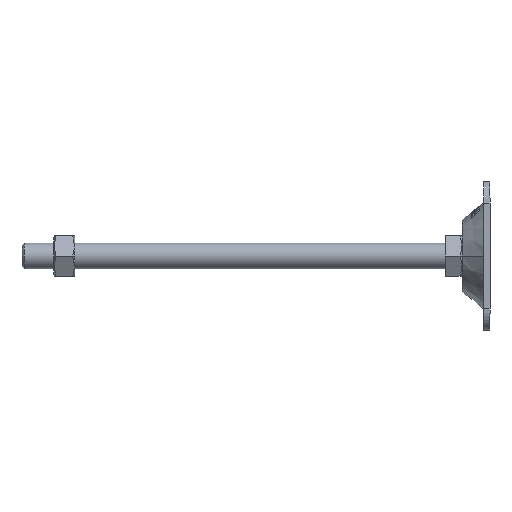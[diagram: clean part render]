
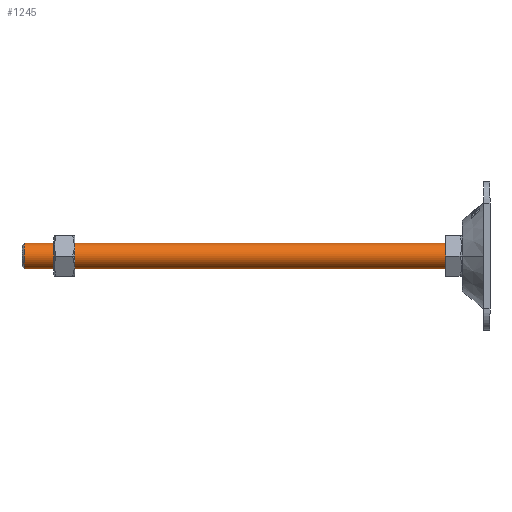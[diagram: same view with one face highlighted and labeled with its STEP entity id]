
A CAD part, left-side view. The second image highlights one B-rep face of the part: STEP entity #1245.
In plain terms, the highlighted cylindrical face has radius 6 mm (diameter 12 mm), a partial arc.
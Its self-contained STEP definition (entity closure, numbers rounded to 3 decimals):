
#38 = ORIENTED_EDGE ( 'NONE', *, *, #2891, .T. ) ;
#104 = CARTESIAN_POINT ( 'NONE',  ( 0., 207., 6. ) ) ;
#267 = CARTESIAN_POINT ( 'NONE',  ( 0., 6., 0. ) ) ;
#300 = FACE_OUTER_BOUND ( 'NONE', #1595, .T. ) ;
#674 = CARTESIAN_POINT ( 'NONE',  ( 0., 207., -6. ) ) ;
#676 = AXIS2_PLACEMENT_3D ( 'NONE', #5025, #1889, #4576 ) ;
#1078 = CARTESIAN_POINT ( 'NONE',  ( 0., 8., -6. ) ) ;
#1245 = ADVANCED_FACE ( 'NONE', ( #300 ), #1293, .T. ) ;
#1293 = CYLINDRICAL_SURFACE ( 'NONE', #5319, 6. ) ;
#1327 = CIRCLE ( 'NONE', #5057, 6. ) ;
#1354 = LINE ( 'NONE', #1745, #4236 ) ;
#1573 = EDGE_CURVE ( 'NONE', #2275, #2428, #1327, .T. ) ;
#1595 = EDGE_LOOP ( 'NONE', ( #2796, #38, #4750, #4358 ) ) ;
#1745 = CARTESIAN_POINT ( 'NONE',  ( 0., 6., -6. ) ) ;
#1889 = DIRECTION ( 'NONE',  ( 0., -1., 0. ) ) ;
#2275 = VERTEX_POINT ( 'NONE', #1078 ) ;
#2428 = VERTEX_POINT ( 'NONE', #3071 ) ;
#2687 = VERTEX_POINT ( 'NONE', #674 ) ;
#2796 = ORIENTED_EDGE ( 'NONE', *, *, #4662, .F. ) ;
#2891 = EDGE_CURVE ( 'NONE', #3062, #2687, #3276, .T. ) ;
#3062 = VERTEX_POINT ( 'NONE', #104 ) ;
#3063 = DIRECTION ( 'NONE',  ( 0., -1., 0. ) ) ;
#3071 = CARTESIAN_POINT ( 'NONE',  ( 0., 8., 6. ) ) ;
#3166 = LINE ( 'NONE', #4482, #4999 ) ;
#3276 = CIRCLE ( 'NONE', #676, 6. ) ;
#3686 = DIRECTION ( 'NONE',  ( 0., 1., 0. ) ) ;
#3713 = CARTESIAN_POINT ( 'NONE',  ( 0., 8., 0. ) ) ;
#4236 = VECTOR ( 'NONE', #5788, 1000. ) ;
#4358 = ORIENTED_EDGE ( 'NONE', *, *, #1573, .T. ) ;
#4482 = CARTESIAN_POINT ( 'NONE',  ( 0., 6., 6. ) ) ;
#4574 = DIRECTION ( 'NONE',  ( 0., 0., 1. ) ) ;
#4576 = DIRECTION ( 'NONE',  ( 0., 0., -1. ) ) ;
#4662 = EDGE_CURVE ( 'NONE', #3062, #2428, #3166, .T. ) ;
#4750 = ORIENTED_EDGE ( 'NONE', *, *, #5051, .T. ) ;
#4885 = DIRECTION ( 'NONE',  ( 0., 0., -1. ) ) ;
#4999 = VECTOR ( 'NONE', #5853, 1000. ) ;
#5025 = CARTESIAN_POINT ( 'NONE',  ( 0., 207., 0. ) ) ;
#5051 = EDGE_CURVE ( 'NONE', #2687, #2275, #1354, .T. ) ;
#5057 = AXIS2_PLACEMENT_3D ( 'NONE', #3713, #3686, #4574 ) ;
#5319 = AXIS2_PLACEMENT_3D ( 'NONE', #267, #3063, #4885 ) ;
#5788 = DIRECTION ( 'NONE',  ( 0., -1., 0. ) ) ;
#5853 = DIRECTION ( 'NONE',  ( 0., -1., 0. ) ) ;
